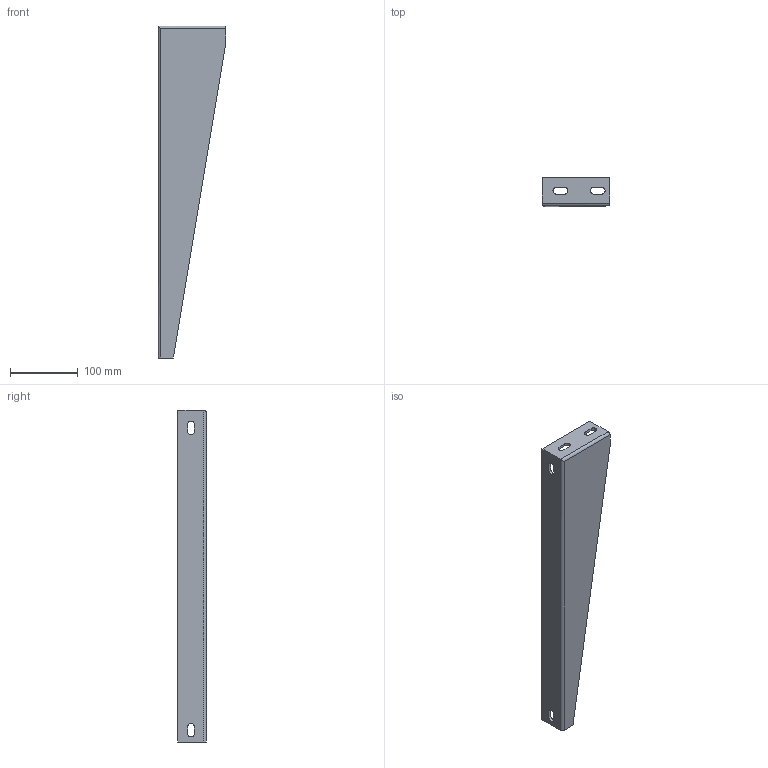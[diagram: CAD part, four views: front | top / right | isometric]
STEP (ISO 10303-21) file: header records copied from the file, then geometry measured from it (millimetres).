
FILE_DESCRIPTION((''),'2;1');
FILE_NAME('SUM490SN','2002-12-27T',('Lipro doo'),('Lipro d.o.o.'),'PRO/ENGINEER BY PARAMETRIC TECHNOLOGY CORPORATION, 2001150','PRO/ENGINEER BY PARAMETRIC TECHNOLOGY CORPORATION, 2001150','');
FILE_SCHEMA(('CONFIG_CONTROL_DESIGN'));
Length unit declared in the file: millimetre
Products named in the file (1): SUM490SN
Bounding box: 100 x 42 x 490 mm (x, y, z)
Volume: 208304.5 mm3; surface area: 108986.4 mm2
Topology: 1 solids, 1 shells, 30 faces, 82 edges, 54 vertices
Faces by surface type: plane 18, cylinder 12
Entity records: 1017 total; most frequent: CARTESIAN_POINT 183, ORIENTED_EDGE 164, DIRECTION 160, EDGE_CURVE 82, VECTOR 60, LINE 60, VERTEX_POINT 54, AXIS2_PLACEMENT_3D 50
